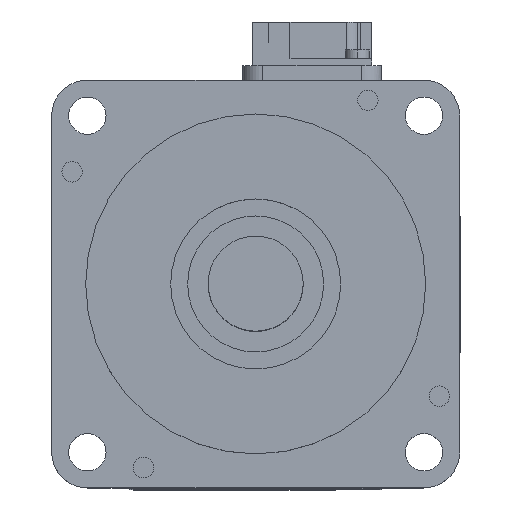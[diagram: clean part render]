
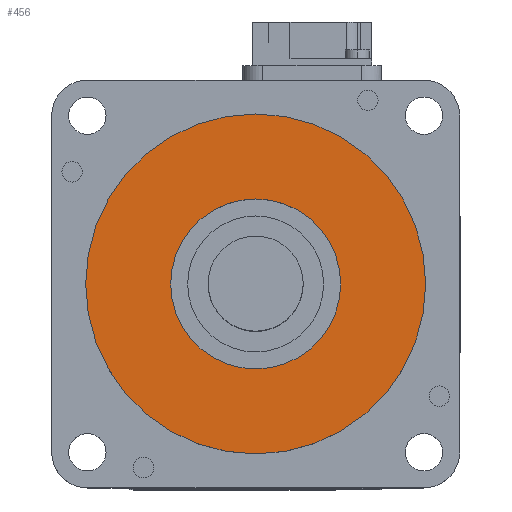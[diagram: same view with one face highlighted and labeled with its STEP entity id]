
A CAD part, top view. The second image highlights one B-rep face of the part: STEP entity #456.
In plain terms, the highlighted planar face has unit normal (0, 0, 1).
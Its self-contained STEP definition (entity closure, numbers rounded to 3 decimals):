
#385 = ORIENTED_EDGE ( 'NONE', *, *, #6429, .T. ) ;
#386 = EDGE_LOOP ( 'NONE', ( #387, #388 ) ) ;
#387 = ORIENTED_EDGE ( 'NONE', *, *, #6426, .F. ) ;
#388 = ORIENTED_EDGE ( 'NONE', *, *, #389, .F. ) ;
#389 = EDGE_CURVE ( 'NONE', #6428, #6427, #8310, .T. ) ;
#404 = EDGE_LOOP ( 'NONE', ( #457, #385 ) ) ;
#456 = ADVANCED_FACE ( 'NONE', ( #8412, #8411 ), #8474, .T. ) ;
#457 = ORIENTED_EDGE ( 'NONE', *, *, #458, .T. ) ;
#458 = EDGE_CURVE ( 'NONE', #6434, #6431, #8469, .T. ) ;
#6426 = EDGE_CURVE ( 'NONE', #6427, #6428, #17962, .T. ) ;
#6427 = VERTEX_POINT ( 'NONE', #17957 ) ;
#6428 = VERTEX_POINT ( 'NONE', #17956 ) ;
#6429 = EDGE_CURVE ( 'NONE', #6431, #6434, #17955, .T. ) ;
#6431 = VERTEX_POINT ( 'NONE', #17950 ) ;
#6434 = VERTEX_POINT ( 'NONE', #17948 ) ;
#8308 = CARTESIAN_POINT ( 'NONE',  ( 0., 0., 3. ) ) ;
#8309 = AXIS2_PLACEMENT_3D ( 'NONE', #8308, #8371, #8370 ) ;
#8310 = CIRCLE ( 'NONE', #8309, 25. ) ;
#8370 = DIRECTION ( 'NONE',  ( -1., 0., 0. ) ) ;
#8371 = DIRECTION ( 'NONE',  ( 0., 0., -1. ) ) ;
#8411 = FACE_OUTER_BOUND ( 'NONE', #386, .T. ) ;
#8412 = FACE_BOUND ( 'NONE', #404, .T. ) ;
#8465 = DIRECTION ( 'NONE',  ( -1., 0., 0. ) ) ;
#8466 = DIRECTION ( 'NONE',  ( 0., 0., -1. ) ) ;
#8467 = CARTESIAN_POINT ( 'NONE',  ( 0., 0., 3. ) ) ;
#8468 = AXIS2_PLACEMENT_3D ( 'NONE', #8467, #8466, #8465 ) ;
#8469 = CIRCLE ( 'NONE', #8468, 12.5 ) ;
#8470 = DIRECTION ( 'NONE',  ( 1., 0., 0. ) ) ;
#8471 = DIRECTION ( 'NONE',  ( 0., 0., 1. ) ) ;
#8472 = CARTESIAN_POINT ( 'NONE',  ( 0., 25., 3. ) ) ;
#8473 = AXIS2_PLACEMENT_3D ( 'NONE', #8472, #8471, #8470 ) ;
#8474 = PLANE ( 'NONE',  #8473 ) ;
#17948 = CARTESIAN_POINT ( 'NONE',  ( -12.5, 0., 3. ) ) ;
#17950 = CARTESIAN_POINT ( 'NONE',  ( 12.5, 0., 3. ) ) ;
#17951 = DIRECTION ( 'NONE',  ( -1., 0., 0. ) ) ;
#17952 = DIRECTION ( 'NONE',  ( 0., 0., -1. ) ) ;
#17953 = CARTESIAN_POINT ( 'NONE',  ( 0., 0., 3. ) ) ;
#17954 = AXIS2_PLACEMENT_3D ( 'NONE', #17953, #17952, #17951 ) ;
#17955 = CIRCLE ( 'NONE', #17954, 12.5 ) ;
#17956 = CARTESIAN_POINT ( 'NONE',  ( 25., 0., 3. ) ) ;
#17957 = CARTESIAN_POINT ( 'NONE',  ( -25., 0., 3. ) ) ;
#17958 = DIRECTION ( 'NONE',  ( -1., 0., 0. ) ) ;
#17959 = DIRECTION ( 'NONE',  ( 0., 0., -1. ) ) ;
#17960 = CARTESIAN_POINT ( 'NONE',  ( 0., 0., 3. ) ) ;
#17961 = AXIS2_PLACEMENT_3D ( 'NONE', #17960, #17959, #17958 ) ;
#17962 = CIRCLE ( 'NONE', #17961, 25. ) ;
